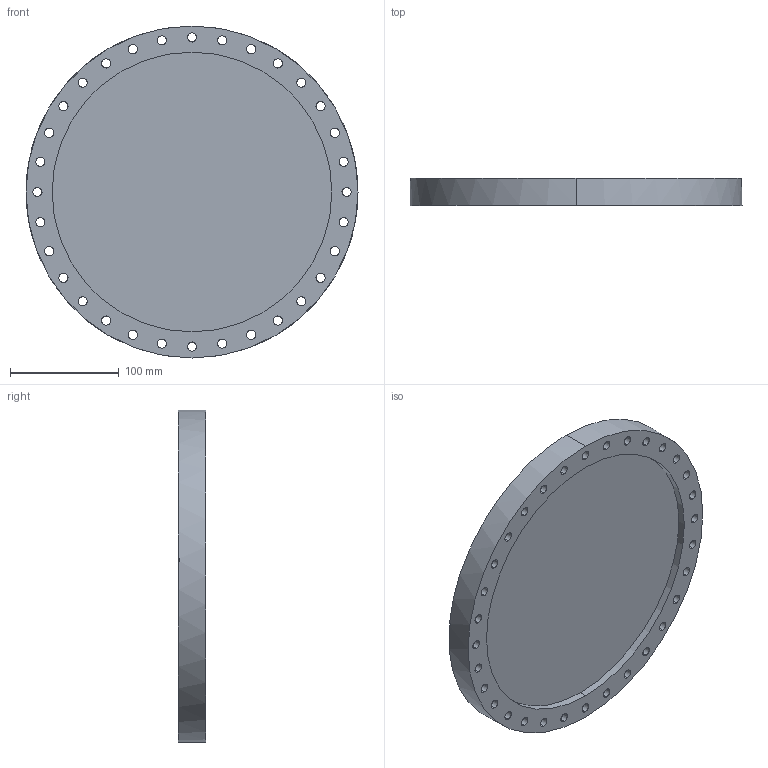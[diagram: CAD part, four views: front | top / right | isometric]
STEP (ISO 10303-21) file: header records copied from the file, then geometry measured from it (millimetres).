
FILE_DESCRIPTION (( 'STEP AP214' ), '1' );
FILE_NAME ('W6BCFD250.STEP', '2021-07-09T09:28:06', ( '' ), ( '' ), 'SwSTEP 2.0', 'SolidWorks 2020', '' );
FILE_SCHEMA (( 'AUTOMOTIVE_DESIGN' ));
Length unit declared in the file: millimetre
Products named in the file (1): W6BCFD250
Bounding box: 305 x 25 x 305 mm (x, y, z)
Volume: 1348072.6 mm3; surface area: 236472.3 mm2
Topology: 2 solids, 2 shells, 96 faces, 260 edges, 170 vertices
Faces by surface type: cylinder 78, plane 8, cone 6, torus 4
Entity records: 3349 total; most frequent: DIRECTION 620, CARTESIAN_POINT 595, ORIENTED_EDGE 520, AXIS2_PLACEMENT_3D 267, EDGE_CURVE 260, VERTEX_POINT 170, CIRCLE 170, EDGE_LOOP 164
